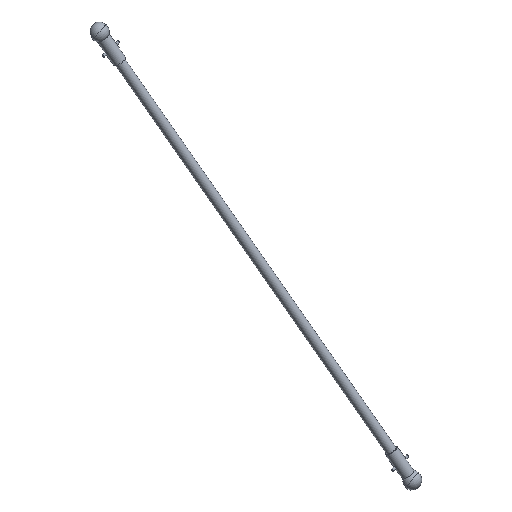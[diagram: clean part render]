
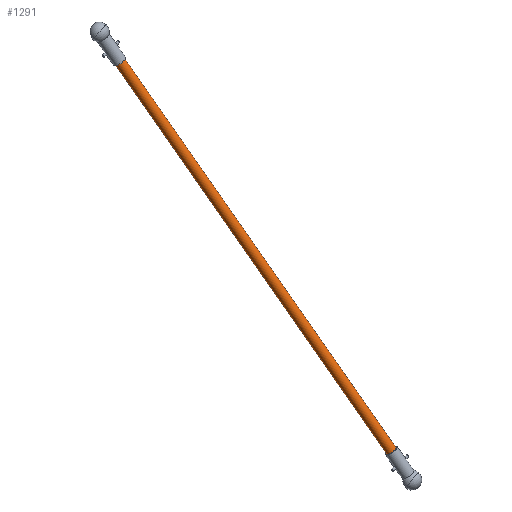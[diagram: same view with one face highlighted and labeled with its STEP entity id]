
A CAD part, left-side view. The second image highlights one B-rep face of the part: STEP entity #1291.
In plain terms, the highlighted cylindrical face has radius 8 mm (diameter 16 mm), a partial arc.
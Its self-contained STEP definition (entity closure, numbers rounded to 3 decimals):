
#9 = AXIS2_PLACEMENT_3D ( 'NONE', #932, #467, #1181 ) ;
#40 = AXIS2_PLACEMENT_3D ( 'NONE', #234, #1230, #970 ) ;
#124 = EDGE_CURVE ( 'NONE', #982, #1445, #599, .T. ) ;
#145 = EDGE_CURVE ( 'NONE', #982, #392, #670, .T. ) ;
#148 = ORIENTED_EDGE ( 'NONE', *, *, #145, .F. ) ;
#188 = AXIS2_PLACEMENT_3D ( 'NONE', #792, #1431, #1158 ) ;
#234 = CARTESIAN_POINT ( 'NONE',  ( -303.57, 421.799, -315.887 ) ) ;
#277 = CARTESIAN_POINT ( 'NONE',  ( -79.633, 27.316, -867.335 ) ) ;
#299 = VERTEX_POINT ( 'NONE', #1280 ) ;
#392 = VERTEX_POINT ( 'NONE', #896 ) ;
#410 = EDGE_CURVE ( 'NONE', #1445, #299, #676, .T. ) ;
#456 = FACE_OUTER_BOUND ( 'NONE', #622, .T. ) ;
#467 = DIRECTION ( 'NONE',  ( -0.314, 0.543, 0.779 ) ) ;
#554 = DIRECTION ( 'NONE',  ( -0.314, 0.543, 0.779 ) ) ;
#599 = CIRCLE ( 'NONE', #9, 8. ) ;
#622 = EDGE_LOOP ( 'NONE', ( #148, #871, #681, #899 ) ) ;
#641 = CARTESIAN_POINT ( 'NONE',  ( -85.539, 50.771, -861.68 ) ) ;
#670 = LINE ( 'NONE', #1543, #1015 ) ;
#676 = LINE ( 'NONE', #277, #1142 ) ;
#681 = ORIENTED_EDGE ( 'NONE', *, *, #410, .T. ) ;
#792 = CARTESIAN_POINT ( 'NONE',  ( -79.606, 33.882, -871.905 ) ) ;
#871 = ORIENTED_EDGE ( 'NONE', *, *, #124, .T. ) ;
#896 = CARTESIAN_POINT ( 'NONE',  ( -303.543, 428.365, -320.457 ) ) ;
#899 = ORIENTED_EDGE ( 'NONE', *, *, #1401, .T. ) ;
#932 = CARTESIAN_POINT ( 'NONE',  ( -85.566, 44.205, -857.109 ) ) ;
#970 = DIRECTION ( 'NONE',  ( -0.003, -0.821, 0.571 ) ) ;
#982 = VERTEX_POINT ( 'NONE', #641 ) ;
#1015 = VECTOR ( 'NONE', #1220, 1000. ) ;
#1142 = VECTOR ( 'NONE', #554, 1000. ) ;
#1148 = CIRCLE ( 'NONE', #40, 8. ) ;
#1158 = DIRECTION ( 'NONE',  ( -0.003, -0.821, 0.571 ) ) ;
#1181 = DIRECTION ( 'NONE',  ( -0.003, -0.821, 0.571 ) ) ;
#1220 = DIRECTION ( 'NONE',  ( -0.314, 0.543, 0.779 ) ) ;
#1230 = DIRECTION ( 'NONE',  ( 0.314, -0.543, -0.779 ) ) ;
#1280 = CARTESIAN_POINT ( 'NONE',  ( -303.597, 415.232, -311.316 ) ) ;
#1291 = ADVANCED_FACE ( 'NONE', ( #456 ), #1294, .T. ) ;
#1294 = CYLINDRICAL_SURFACE ( 'NONE', #188, 8. ) ;
#1401 = EDGE_CURVE ( 'NONE', #299, #392, #1148, .T. ) ;
#1431 = DIRECTION ( 'NONE',  ( -0.314, 0.543, 0.779 ) ) ;
#1445 = VERTEX_POINT ( 'NONE', #1535 ) ;
#1535 = CARTESIAN_POINT ( 'NONE',  ( -85.593, 37.639, -852.539 ) ) ;
#1543 = CARTESIAN_POINT ( 'NONE',  ( -79.579, 40.448, -876.476 ) ) ;
